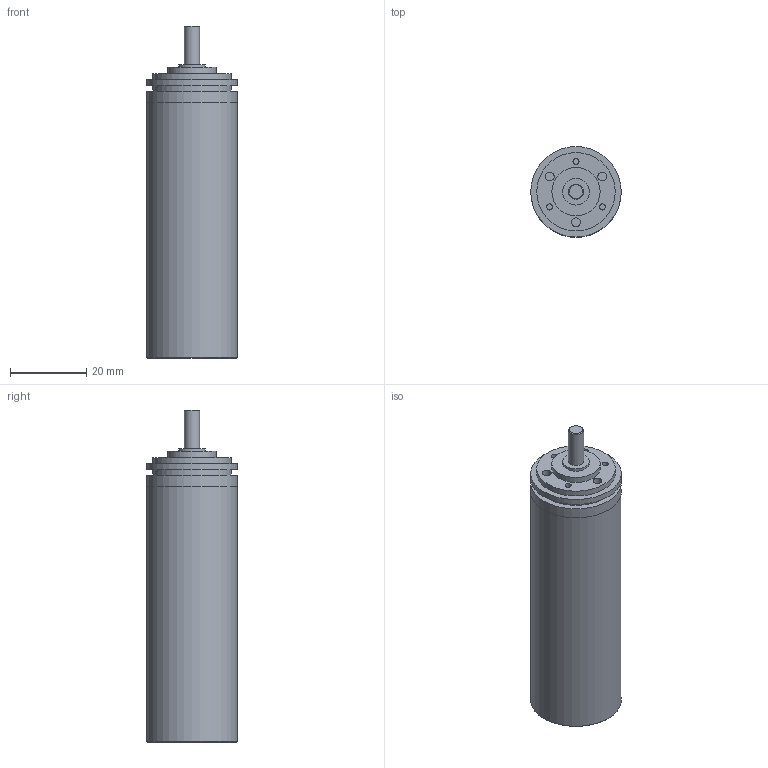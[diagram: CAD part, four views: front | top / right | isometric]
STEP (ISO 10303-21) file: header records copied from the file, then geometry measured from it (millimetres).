
FILE_DESCRIPTION(/* description */ (''),/* implementation_level */ '2;1');
FILE_NAME(/* name */ '22-2K_12.stp',/* time_stamp */ '2016-08-26T11:41:19+02:00',/* author */ ('DR. FRITZ FAULHABER GmbH & Co. KG'),/* organization */ ('DR. FRITZ FAULHABER GmbH & Co. KG'),/* preprocessor_version */ 'ST-DEVELOPER v16',/* originating_system */ 'SIEMENS PLM Software NX 10.0',/* authorisation */ '');
FILE_SCHEMA (('AUTOMOTIVE_DESIGN { 1 0 10303 214 3 1 1 1 }'));
Length unit declared in the file: millimetre
Products named in the file (1): H00000871_A
Bounding box: 23.8 x 23.8 x 87.3 mm (x, y, z)
Volume: 25377.7 mm3; surface area: 8553.9 mm2
Topology: 1 solids, 1 shells, 42 faces, 65 edges, 43 vertices
Faces by surface type: plane 20, cylinder 19, cone 3
Full cylindrical faces by diameter (mm): 1.6 x3, 2.329 x3, 3.5 x1, 4 x1, 4.5 x1, 7 x2, 12.7 x1, 20.63 x2, 22 x1, 23.79 x1, 23.8 x3
Entity records: 858 total; most frequent: DIRECTION 168, CARTESIAN_POINT 125, AXIS2_PLACEMENT_3D 84, EDGE_LOOP 82, ORIENTED_EDGE 82, FACE_BOUND 74, ADVANCED_FACE 42, VERTEX_POINT 41
